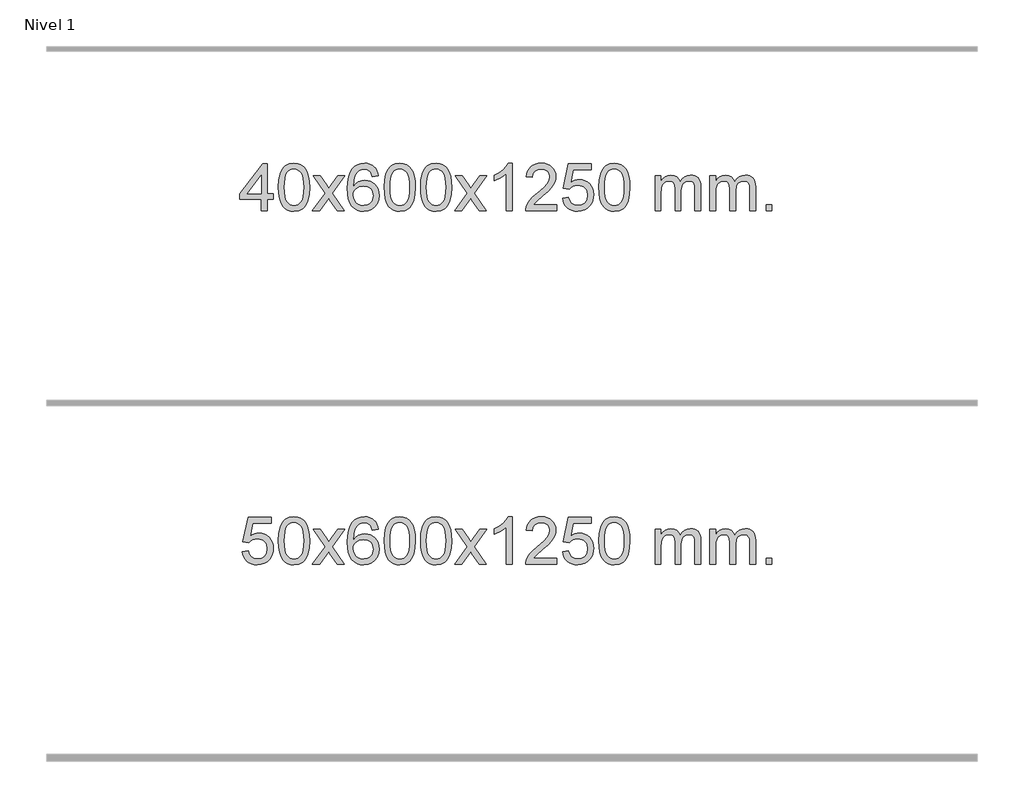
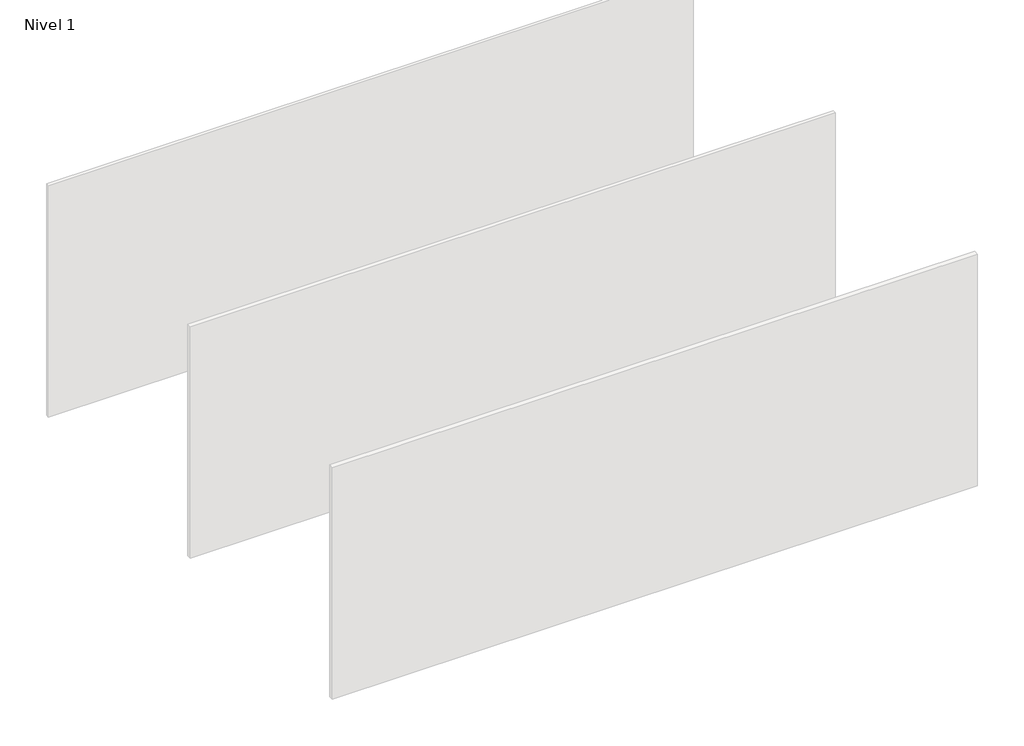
# One storey, part 4 of 4: 2 proxies.
"""IFC4 building model written with IfcOpenShell, lengths in millimetres."""

import ifcopenshell
import ifcopenshell.guid

model = None  # the IFC model being written
_history = None  # IfcOwnerHistory: only IFC2X3 demands one
_inside = {}  # id of a spatial element -> (the spatial element, [elements in it])
_under = {}  # id of a project, library or spatial element -> (it, [spatial elements below it])
_declared = {}  # id of a project -> (the project, [libraries it declares])
_typed = {}  # id of a type object -> (the type object, [elements of that type])
_made_of = {}  # id of a material, layer set ... -> (it, [elements and type objects made of it])


def new_model(schema):
    """Start an empty IFC model of exactly this schema.

    Asked for "IFC4X3", IfcOpenShell would pick the latest addendum, in which some entities
    have other attributes; the version numbers below select the first issue.
    IFC2X3 requires an IfcOwnerHistory on every rooted entity: one is made here for all.
    """
    global model, _history
    if schema == "IFC4X3":
        model = ifcopenshell.file(schema_version=(4, 3, 0, 0))
    else:
        model = ifcopenshell.file(schema=schema)
    _inside.clear()
    _under.clear()
    _declared.clear()
    _typed.clear()
    _made_of.clear()
    _history = None
    if model.schema == "IFC2X3":
        org = make("IfcOrganization", Name="unknown")
        user = make(
            "IfcPersonAndOrganization",
            ThePerson=make("IfcPerson", FamilyName="unknown"),
            TheOrganization=org,
        )
        app = make(
            "IfcApplication",
            ApplicationDeveloper=org,
            Version="unknown",
            ApplicationFullName="unknown",
            ApplicationIdentifier="unknown",
        )
        _history = make(
            "IfcOwnerHistory",
            OwningUser=user,
            OwningApplication=app,
            ChangeAction="ADDED",
            CreationDate=0,
        )
    return model


def make(cls, **values):
    """One entity of the class cls with the attributes given. An attribute that is None is left unset."""
    return model.create_entity(
        cls, **{name: value for name, value in values.items() if value is not None}
    )


def rooted(cls, **values):
    """An entity with a GlobalId (a new one), such as an element, a storey or a relation."""
    return make(cls, GlobalId=ifcopenshell.guid.new(), OwnerHistory=_history, **values)


def si_unit(unit_type, name, prefix=None):
    """IfcSIUnit, for example si_unit("LENGTHUNIT", "METRE", prefix="MILLI")."""
    return make("IfcSIUnit", UnitType=unit_type, Prefix=prefix, Name=name)


def assignment(units):
    """IfcUnitAssignment: the units of a project."""
    return None if units is None else make("IfcUnitAssignment", Units=units)


def point(xyz):
    """IfcCartesianPoint."""
    return None if xyz is None else make("IfcCartesianPoint", Coordinates=xyz)


def direction(xyz):
    """IfcDirection."""
    return None if xyz is None else make("IfcDirection", DirectionRatios=xyz)


def frame(location, z_axis=None, x_axis=None):
    """IfcAxis2Placement3D, a coordinate frame: its origin and axes. An axis left out is left unset."""
    return make(
        "IfcAxis2Placement3D",
        Location=point(location),
        Axis=direction(z_axis),
        RefDirection=direction(x_axis),
    )


def origin():
    """The frame at (0, 0, 0) with its axes left unset."""
    return frame((0.0, 0.0, 0.0))


def origin_with_axes():
    """The frame at (0, 0, 0) with the z axis (0, 0, 1) and the x axis (1, 0, 0) written out."""
    return frame((0.0, 0.0, 0.0), z_axis=(0.0, 0.0, 1.0), x_axis=(1.0, 0.0, 0.0))


def place(relative_to, where):
    """IfcLocalPlacement: puts the frame where relative to a parent placement (None: the world)."""
    return make(
        "IfcLocalPlacement", PlacementRelTo=relative_to, RelativePlacement=where
    )


def context(
    kind, dimensions, precision=None, world=None, true_north=None, identifier=None
):
    """IfcGeometricRepresentationContext, for example the 3D "Model" context."""
    return make(
        "IfcGeometricRepresentationContext",
        ContextIdentifier=identifier,
        ContextType=kind,
        CoordinateSpaceDimension=dimensions,
        Precision=precision,
        WorldCoordinateSystem=world,
        TrueNorth=true_north,
    )


def project(units=None, contexts=None):
    """IfcProject with its units and contexts."""
    return rooted(
        "IfcProject",
        Name="project",
        RepresentationContexts=contexts,
        UnitsInContext=assignment(units),
    )


def spatial(cls, under=None, at=None, **own):
    """A site, building, storey or space (cls), placed at a placement, below another one or the project."""
    s = rooted(cls, ObjectPlacement=at, **own)
    if under is not None:
        _under.setdefault(under.id(), (under, []))[1].append(s)
    return s


def polyline(points):
    """IfcPolyline through the points."""
    return make("IfcPolyline", Points=[point(p) for p in points])


def outline(outer, holes=None, kind="AREA"):
    """IfcArbitraryClosedProfileDef: a profile drawn as a closed curve; with holes, ...WithVoids."""
    if holes is None:
        return make("IfcArbitraryClosedProfileDef", ProfileType=kind, OuterCurve=outer)
    return make(
        "IfcArbitraryProfileDefWithVoids",
        ProfileType=kind,
        OuterCurve=outer,
        InnerCurves=holes,
    )


def extrude(swept, where, along, depth):
    """IfcExtrudedAreaSolid: the profile swept, set in the frame where, extruded along a direction by depth."""
    return make(
        "IfcExtrudedAreaSolid",
        SweptArea=swept,
        Position=where,
        ExtrudedDirection=direction(along),
        Depth=depth,
    )


def shape(context_of_items, identifier, shape_type, items):
    """IfcShapeRepresentation: the items that make up one representation, for example the "Body"."""
    return make(
        "IfcShapeRepresentation",
        ContextOfItems=context_of_items,
        RepresentationIdentifier=identifier,
        RepresentationType=shape_type,
        Items=items,
    )


def made_of(thing, what):
    """Note that an element or type object is made of a material, layer set ...; save() writes the relation."""
    if what is not None:
        _made_of.setdefault(what.id(), (what, []))[1].append(thing)
    return thing


def element(
    cls,
    number,
    at=None,
    inside=None,
    cuts=None,
    type_object=None,
    material=None,
    context=None,
    identifier="Body",
    shape_type=None,
    held_by="IfcProductDefinitionShape",
    body=None,
    shapes=None,
    **own,
):
    """One element of the class cls, such as IfcWall. Its Tag is "e" and its number.

    at: its placement. inside: the storey or other place that contains it. cuts: it is an
    opening in that element (IfcRelVoidsElement). A single representation is given by context,
    identifier, shape_type and body (its items); several are given by shapes. held_by: the class
    of the entity that holds the representations. save() writes the other relations.
    """
    e = rooted(cls, Tag="e%d" % number, ObjectPlacement=at, **own)
    if body is not None:
        shapes = [shape(context, identifier, shape_type, body)]
    if shapes is not None:
        e.Representation = make(held_by, Representations=shapes)
    if inside is not None:
        _inside.setdefault(inside.id(), (inside, []))[1].append(e)
    if cuts is not None:
        rooted(
            "IfcRelVoidsElement", RelatingBuildingElement=cuts, RelatedOpeningElement=e
        )
    if type_object is not None:
        _typed.setdefault(type_object.id(), (type_object, []))[1].append(e)
    return made_of(e, material)


def aggregate(whole, parts):
    """IfcRelAggregates: a whole, such as a stair, and the parts it consists of."""
    return rooted("IfcRelAggregates", RelatingObject=whole, RelatedObjects=parts)


def save(model, path):
    """Write the relations noted so far, then the file.

    IfcRelAggregates (storeys below a building ...), IfcRelContainedInSpatialStructure (elements
    in a storey), IfcRelDefinesByType, IfcRelAssociatesMaterial and IfcRelDeclares: one each for
    every whole, place, type object, material and project.
    """
    for whole, parts in _under.values():
        aggregate(whole, parts)
    for where, things in _inside.values():
        rooted(
            "IfcRelContainedInSpatialStructure",
            RelatedElements=things,
            RelatingStructure=where,
        )
    for kind, things in _typed.values():
        rooted("IfcRelDefinesByType", RelatedObjects=things, RelatingType=kind)
    for what, things in _made_of.values():
        rooted("IfcRelAssociatesMaterial", RelatedObjects=things, RelatingMaterial=what)
    for by, libraries in _declared.values():
        rooted("IfcRelDeclares", RelatingContext=by, RelatedDefinitions=libraries)
    model.write(path)


model = new_model("IFC4")

# Units and contexts
model_context = context("Model", 3, world=origin())
ifc_project = project(units=[si_unit("LENGTHUNIT", "METRE", prefix="MILLI")], contexts=[model_context])

# Site, building, storey
site = spatial("IfcSite", under=ifc_project)
building = spatial("IfcBuilding", under=site)
storey = spatial("IfcBuildingStorey", under=building, Name="Nivel 1", Elevation=0.0)

# Proxies
placement = place(None, origin())
element("IfcBuildingElementProxy", 1, Name="Texto de modelo 1", ObjectType="Texto de modelo 1", at=placement, inside=storey, context=model_context, shape_type="SweptSolid", body=[
    extrude(outline(polyline([(-4707.6020619, 2608.420547), (-4707.6020619, 2702.5983378), (-4889.6791241, 2702.5983378), (-4889.6791241, 2752.8264928), (-4695.0450232, 3003.9672682), (-4657.3739068, 3003.9672682), (-4657.3739068, 2752.8264928), (-4607.1457518, 2752.8264928), (-4607.1457518, 2702.5983378), (-4657.3739068, 2702.5983378), (-4657.3739068, 2608.420547), (-4707.6020619, 2608.420547)]), holes=[polyline([(-4707.6020619, 2752.8264928), (-4707.6020619, 2908.0236439), (-4827.8749489, 2752.8264928), (-4707.6020619, 2752.8264928)])]), origin_with_axes(), (0.0, 0.0, 1.0), 10.0),
    extrude(outline(polyline([(-4563.1961161, 2806.0958057), (-4559.5050334, 2870.4138412), (-4548.4317853, 2921.7088541), (-4530.0867365, 2960.7656593), (-4518.2286735, 2975.9990395), (-4504.5802515, 2988.3690716), (-4489.0954852, 2997.9401349), (-4471.7283893, 3004.7766086), (-4431.347209, 3010.2457876), (-4400.3960705, 3007.008426), (-4372.6822935, 2997.2963414), (-4349.5057278, 2981.4896783), (-4332.1662231, 2959.9685816), (-4319.0696241, 2932.9169922), (-4308.6217754, 2900.5188512), (-4301.7791703, 2859.3773814), (-4299.4983019, 2806.0958057), (-4303.1525964, 2742.1456523), (-4314.1154799, 2690.9732667), (-4332.3501641, 2651.8796734), (-4344.1806359, 2636.6003078), (-4357.8198609, 2624.1658964), (-4373.3230213, 2614.5304538), (-4390.7452995, 2607.6479948), (-4431.347209, 2602.1420276), (-4459.011935, 2604.5332606), (-4483.5374014, 2611.7069595), (-4504.923608, 2623.6631243), (-4523.170555, 2640.4017551), (-4540.681738, 2670.6600492), (-4553.1897258, 2708.3618224), (-4560.6945185, 2753.5070745), (-4563.1961161, 2806.0958057)]), holes=[polyline([(-4512.967961, 2806.1939076), (-4511.496433, 2762.5293805), (-4507.0818491, 2727.1851178), (-4499.7242092, 2700.1611196), (-4489.4235133, 2681.4573858), (-4476.9645764, 2668.7317344), (-4463.1322134, 2659.6419835), (-4447.9264243, 2654.1881329), (-4431.347209, 2652.3701827), (-4414.7679938, 2654.1942643), (-4399.5622046, 2659.6665089), (-4385.7298416, 2668.7869167), (-4373.2709047, 2681.5554876), (-4362.9702088, 2700.2898783), (-4355.6125689, 2727.3077451), (-4351.197985, 2762.6090882), (-4349.726457, 2806.1939076), (-4351.1489341, 2848.7026722), (-4355.4163652, 2883.4246011), (-4362.5287504, 2910.3596945), (-4372.4860898, 2929.5079524), (-4384.7365602, 2942.8559375), (-4398.7283388, 2952.3902125), (-4414.4614254, 2958.1107775), (-4431.9358202, 2960.0176325), (-4448.4291963, 2958.3376381), (-4463.3774681, 2953.2976548), (-4476.7806354, 2944.8976825), (-4488.6386984, 2933.1377214), (-4499.2827508, 2912.291075), (-4506.8856454, 2884.1848906), (-4511.4473821, 2848.8191681), (-4512.967961, 2806.1939076)])]), origin_with_axes(), (0.0, 0.0, 1.0), 10.0),
    extrude(outline(polyline([(-4274.3842244, 2608.420547), (-4167.0607837, 2756.7505675), (-4268.105705, 2903.5109581), (-4207.6749559, 2903.5109581), (-4158.9183288, 2832.877615), (-4136.1586961, 2799.5229808), (-4116.4402211, 2826.7952993), (-4060.9145653, 2903.5109581), (-4000.4838163, 2903.5109581), (-4106.6300346, 2756.7505675), (-4004.4078909, 2608.420547), (-4064.8386399, 2608.420547), (-4126.3485095, 2697.5951426), (-4137.6302241, 2713.8800523), (-4213.9534753, 2608.420547), (-4274.3842244, 2608.420547)])), origin_with_axes(), (0.0, 0.0, 1.0), 10.0),
    extrude(outline(polyline([(-3715.5959992, 2903.5109581), (-3765.8241543, 2897.2324387), (-3773.9175582, 2922.125787), (-3784.8559162, 2939.1219352), (-3807.6400744, 2954.7937082), (-3835.1821731, 2960.0176325), (-3858.5304171, 2956.9764747), (-3880.5052349, 2947.8530012), (-3899.3775813, 2928.6372983), (-3914.7918368, 2902.1865829), (-3925.2028973, 2864.772984), (-3929.0656583, 2812.6686307), (-3908.9179877, 2836.1762902), (-3884.772666, 2852.7432427), (-3857.9785941, 2862.565692), (-3829.8846724, 2865.8398418), (-3805.7516135, 2863.601893), (-3783.48249, 2856.8880466), (-3763.077302, 2845.6983025), (-3744.5360495, 2830.0326609), (-3729.1279252, 2810.8230894), (-3718.1221222, 2789.0015557), (-3711.5186404, 2764.5680599), (-3709.3174798, 2737.5226018), (-3713.4622836, 2701.5560055), (-3725.8966951, 2668.213634), (-3745.5906445, 2639.9357713), (-3771.5140625, 2619.1627013), (-3802.4897265, 2606.397196), (-3837.3404141, 2602.1420276), (-3867.2829429, 2604.9624563), (-3894.3253352, 2613.4237421), (-3918.4675911, 2627.5258853), (-3939.7097107, 2647.2688857), (-3957.0277556, 2673.4866092), (-3969.3977877, 2707.0129217), (-3976.8198069, 2747.8478232), (-3979.2938133, 2795.9913136), (-3976.5469611, 2849.9657337), (-3968.3064044, 2896.0306908), (-3954.5721433, 2934.1861851), (-3935.3441776, 2964.4322165), (-3914.5036626, 2984.4756538), (-3890.3399469, 2998.7923948), (-3862.8530305, 3007.3824394), (-3832.0429134, 3010.2457876), (-3808.9092673, 3008.4738227), (-3787.9706504, 3003.1579278), (-3769.2270627, 2994.2981031), (-3752.6785043, 2981.8943485), (-3738.7725649, 2966.3635969), (-3727.9568342, 2948.1227814), (-3720.2313123, 2927.1719017), (-3715.5959992, 2903.5109581)]), holes=[polyline([(-3929.0656583, 2738.3074168), (-3926.1593905, 2716.0505561), (-3917.4405872, 2694.7992395), (-3903.9025298, 2676.527767), (-3886.5384996, 2663.2104388), (-3865.5814886, 2655.0802467), (-3841.2644887, 2652.3701827), (-3808.118321, 2657.9865145), (-3794.2031845, 2665.0069292), (-3782.060013, 2674.8355099), (-3772.2099726, 2687.0737176), (-3765.1742294, 2701.3230135), (-3759.5456349, 2735.8548701), (-3765.100653, 2769.0010379), (-3772.0444257, 2782.6218688), (-3781.7657074, 2794.274531), (-3793.9456671, 2803.6095366), (-3808.2654738, 2810.2773978), (-3843.3246279, 2815.6116867), (-3876.4217448, 2810.2773978), (-3904.0987335, 2794.274531), (-3915.0217631, 2782.7751529), (-3922.8239271, 2769.6141746), (-3927.5052255, 2754.7915958), (-3929.0656583, 2738.3074168)])]), origin_with_axes(), (0.0, 0.0, 1.0), 10.0),
    extrude(outline(polyline([(-3665.3678441, 2806.0958057), (-3661.6767614, 2870.4138412), (-3650.6035134, 2921.7088541), (-3632.2584646, 2960.7656593), (-3620.4004016, 2975.9990395), (-3606.7519796, 2988.3690716), (-3591.2672132, 2997.9401349), (-3573.9001174, 3004.7766086), (-3533.518937, 3010.2457876), (-3502.5677985, 3007.008426), (-3474.8540216, 2997.2963414), (-3451.6774559, 2981.4896783), (-3434.3379511, 2959.9685816), (-3421.2413521, 2932.9169922), (-3410.7935035, 2900.5188512), (-3403.9508983, 2859.3773814), (-3401.67003, 2806.0958057), (-3405.3243245, 2742.1456523), (-3416.2872079, 2690.9732667), (-3434.5218921, 2651.8796734), (-3446.352364, 2636.6003078), (-3459.9915889, 2624.1658964), (-3475.4947494, 2614.5304538), (-3492.9170275, 2607.6479948), (-3533.518937, 2602.1420276), (-3561.1836631, 2604.5332606), (-3585.7091294, 2611.7069595), (-3607.0953361, 2623.6631243), (-3625.342283, 2640.4017551), (-3642.853466, 2670.6600492), (-3655.3614539, 2708.3618224), (-3662.8662466, 2753.5070745), (-3665.3678441, 2806.0958057)]), holes=[polyline([(-3615.139689, 2806.1939076), (-3613.6681611, 2762.5293805), (-3609.2535771, 2727.1851178), (-3601.8959372, 2700.1611196), (-3591.5952414, 2681.4573858), (-3579.1363044, 2668.7317344), (-3565.3039414, 2659.6419835), (-3550.0981523, 2654.1881329), (-3533.518937, 2652.3701827), (-3516.9397218, 2654.1942643), (-3501.7339327, 2659.6665089), (-3487.9015696, 2668.7869167), (-3475.4426327, 2681.5554876), (-3465.1419369, 2700.2898783), (-3457.784297, 2727.3077451), (-3453.369713, 2762.6090882), (-3451.8981851, 2806.1939076), (-3453.3206621, 2848.7026722), (-3457.5880932, 2883.4246011), (-3464.7004785, 2910.3596945), (-3474.6578178, 2929.5079524), (-3486.9082883, 2942.8559375), (-3500.9000668, 2952.3902125), (-3516.6331535, 2958.1107775), (-3534.1075482, 2960.0176325), (-3550.6009244, 2958.3376381), (-3565.5491961, 2953.2976548), (-3578.9523635, 2944.8976825), (-3590.8104264, 2933.1377214), (-3601.4544788, 2912.291075), (-3609.0573734, 2884.1848906), (-3613.6191101, 2848.8191681), (-3615.139689, 2806.1939076)])]), origin_with_axes(), (0.0, 0.0, 1.0), 10.0),
    extrude(outline(polyline([(-3357.7203943, 2806.0958057), (-3354.0293116, 2870.4138412), (-3342.9560635, 2921.7088541), (-3324.6110147, 2960.7656593), (-3312.7529517, 2975.9990395), (-3299.1045297, 2988.3690716), (-3283.6197634, 2997.9401349), (-3266.2526676, 3004.7766086), (-3225.8714872, 3010.2457876), (-3194.9203487, 3007.008426), (-3167.2065717, 2997.2963414), (-3144.030006, 2981.4896783), (-3126.6905013, 2959.9685816), (-3113.5939023, 2932.9169922), (-3103.1460536, 2900.5188512), (-3096.3034485, 2859.3773814), (-3094.0225801, 2806.0958057), (-3097.6768746, 2742.1456523), (-3108.6397581, 2690.9732667), (-3126.8744423, 2651.8796734), (-3138.7049141, 2636.6003078), (-3152.3441391, 2624.1658964), (-3167.8472995, 2614.5304538), (-3185.2695777, 2607.6479948), (-3225.8714872, 2602.1420276), (-3253.5362133, 2604.5332606), (-3278.0616796, 2611.7069595), (-3299.4478862, 2623.6631243), (-3317.6948332, 2640.4017551), (-3335.2060162, 2670.6600492), (-3347.714004, 2708.3618224), (-3355.2187967, 2753.5070745), (-3357.7203943, 2806.0958057)]), holes=[polyline([(-3307.4922392, 2806.1939076), (-3306.0207112, 2762.5293805), (-3301.6061273, 2727.1851178), (-3294.2484874, 2700.1611196), (-3283.9477915, 2681.4573858), (-3271.4888546, 2668.7317344), (-3257.6564916, 2659.6419835), (-3242.4507025, 2654.1881329), (-3225.8714872, 2652.3701827), (-3209.292272, 2654.1942643), (-3194.0864828, 2659.6665089), (-3180.2541198, 2668.7869167), (-3167.7951829, 2681.5554876), (-3157.494487, 2700.2898783), (-3150.1368471, 2727.3077451), (-3145.7222632, 2762.6090882), (-3144.2507352, 2806.1939076), (-3145.6732123, 2848.7026722), (-3149.9406434, 2883.4246011), (-3157.0530287, 2910.3596945), (-3167.010368, 2929.5079524), (-3179.2608384, 2942.8559375), (-3193.252617, 2952.3902125), (-3208.9857036, 2958.1107775), (-3226.4600984, 2960.0176325), (-3242.9534745, 2958.3376381), (-3257.9017463, 2953.2976548), (-3271.3049136, 2944.8976825), (-3283.1629766, 2933.1377214), (-3293.807029, 2912.291075), (-3301.4099236, 2884.1848906), (-3305.9716603, 2848.8191681), (-3307.4922392, 2806.1939076)])]), origin_with_axes(), (0.0, 0.0, 1.0), 10.0),
    extrude(outline(polyline([(-3068.9085026, 2608.420547), (-2961.5850619, 2756.7505675), (-3062.6299832, 2903.5109581), (-3002.1992341, 2903.5109581), (-2953.4426071, 2832.877615), (-2930.6829743, 2799.5229808), (-2910.9644993, 2826.7952993), (-2855.4388435, 2903.5109581), (-2795.0080945, 2903.5109581), (-2901.1543128, 2756.7505675), (-2798.9321691, 2608.420547), (-2859.3629182, 2608.420547), (-2920.8727877, 2697.5951426), (-2932.1545023, 2713.8800523), (-3008.4777535, 2608.420547), (-3068.9085026, 2608.420547)])), origin_with_axes(), (0.0, 0.0, 1.0), 10.0),
    extrude(outline(polyline([(-2579.1839906, 2608.420547), (-2629.4121457, 2608.420547), (-2629.4121457, 2921.5617013), (-2650.3814194, 2904.6023413), (-2676.9915504, 2887.6675068), (-2729.8684559, 2862.3081746), (-2729.8684559, 2909.7894775), (-2690.4192432, 2931.2492605), (-2656.2430059, 2956.780271), (-2629.3017811, 2983.9299622), (-2611.5576062, 3010.2457876), (-2579.1839906, 3010.2457876), (-2579.1839906, 2608.420547)])), origin_with_axes(), (0.0, 0.0, 1.0), 10.0),
    extrude(outline(polyline([(-2202.4728276, 2658.6487021), (-2202.4728276, 2608.420547), (-2466.1706417, 2608.420547), (-2465.0669957, 2626.1034082), (-2460.7750391, 2643.0505055), (-2448.3896786, 2670.1143576), (-2430.265359, 2696.3688693), (-2404.0476355, 2723.8496544), (-2367.3820633, 2754.5923264), (-2313.1807826, 2802.7358169), (-2280.6600143, 2838.2732176), (-2264.3996301, 2867.115166), (-2258.979502, 2895.1722995), (-2264.0930618, 2920.3231653), (-2279.433741, 2941.2311253), (-2303.0149768, 2955.3210057), (-2332.8502067, 2960.0176325), (-2364.1814899, 2955.4313703), (-2388.5230153, 2941.6725837), (-2404.2315765, 2919.8203932), (-2409.6639672, 2890.9539193), (-2459.8921223, 2897.2324387), (-2455.5725746, 2923.161988), (-2447.7152283, 2945.8173875), (-2436.3200835, 2965.1986373), (-2421.3871402, 2981.3057373), (-2403.2597548, 2993.9670093), (-2382.2812841, 3003.010775), (-2358.4517278, 3008.4370345), (-2331.7710861, 3010.2457876), (-2304.8513211, 3008.2346994), (-2280.8930062, 3002.2014346), (-2259.8961413, 2992.1459934), (-2241.8607265, 2978.0683758), (-2227.375373, 2961.0109139), (-2217.0286918, 2942.0159402), (-2210.8206832, 2921.0834547), (-2208.7513469, 2898.2134573), (-2210.9831644, 2874.1907631), (-2217.6786167, 2850.5850017), (-2229.5612051, 2826.5745701), (-2247.354431, 2801.3378653), (-2275.7181328, 2771.2083299), (-2319.3121492, 2732.5194067), (-2377.0941479, 2684.204238), (-2399.7556788, 2658.6487021), (-2202.4728276, 2658.6487021)])), origin_with_axes(), (0.0, 0.0, 1.0), 10.0),
    extrude(outline(polyline([(-2152.2446725, 2715.1553765), (-2102.0165174, 2721.4338959), (-2092.7949421, 2691.2798351), (-2076.7062361, 2669.6851619), (-2053.823976, 2656.6989275), (-2024.2217382, 2652.3701827), (-2005.0918744, 2653.8754332), (-1988.2183536, 2658.3911847), (-1973.6011756, 2665.9174372), (-1961.2403406, 2676.4541906), (-1951.41176, 2689.480279), (-1944.3913452, 2704.4745359), (-1938.7750134, 2740.3675559), (-1944.035726, 2774.1636486), (-1950.6116166, 2788.0818507), (-1959.8178635, 2800.0134901), (-1971.6851236, 2809.5845533), (-1986.2440535, 2816.4210271), (-2023.4369232, 2821.8902061), (-2047.8029741, 2819.7074396), (-2067.5337117, 2813.1591401), (-2083.2913239, 2803.1282243), (-2095.737998, 2790.4976092), (-2145.9661531, 2796.7761285), (-2102.0165174, 3003.9672682), (-1907.3824165, 3003.9672682), (-1907.3824165, 2953.7391131), (-2061.4023451, 2953.7391131), (-2082.8866537, 2843.080209), (-2065.1608729, 2855.7844006), (-2047.0058964, 2864.8588231), (-2028.4217243, 2870.3034766), (-2009.4083565, 2872.1183612), (-1984.9472695, 2869.8681496), (-1962.4788766, 2863.117515), (-1942.0031779, 2851.8664573), (-1923.5201734, 2836.1149766), (-1908.219348, 2816.8256973), (-1897.2901871, 2794.961244), (-1890.7326905, 2770.5216168), (-1888.5468583, 2743.5068156), (-1890.515027, 2717.4852958), (-1896.419533, 2693.2786606), (-1906.2603764, 2670.8869098), (-1920.0375571, 2650.3100435), (-1940.908729, 2629.2365366), (-1965.2625171, 2614.1840316), (-1993.0989214, 2605.1525286), (-2024.4179419, 2602.1420276), (-2050.3382941, 2604.0764738), (-2073.7509175, 2609.8798123), (-2094.6558118, 2619.552043), (-2113.0529773, 2633.0931662), (-2128.359934, 2649.8287312), (-2139.9942021, 2669.084288), (-2147.9557816, 2690.8598364), (-2152.2446725, 2715.1553765)])), origin_with_axes(), (0.0, 0.0, 1.0), 10.0),
    extrude(outline(polyline([(-1844.5972227, 2806.0958057), (-1840.90614, 2870.4138412), (-1829.8328919, 2921.7088541), (-1811.4878431, 2960.7656593), (-1799.6297801, 2975.9990395), (-1785.9813581, 2988.3690716), (-1770.4965918, 2997.9401349), (-1753.1294959, 3004.7766086), (-1712.7483156, 3010.2457876), (-1681.7971771, 3007.008426), (-1654.0834001, 2997.2963414), (-1630.9068344, 2981.4896783), (-1613.5673297, 2959.9685816), (-1600.4707307, 2932.9169922), (-1590.022882, 2900.5188512), (-1583.1802769, 2859.3773814), (-1580.8994085, 2806.0958057), (-1584.553703, 2742.1456523), (-1595.5165865, 2690.9732667), (-1613.7512707, 2651.8796734), (-1625.5817425, 2636.6003078), (-1639.2209675, 2624.1658964), (-1654.7241279, 2614.5304538), (-1672.1464061, 2607.6479948), (-1712.7483156, 2602.1420276), (-1740.4130416, 2604.5332606), (-1764.938508, 2611.7069595), (-1786.3247146, 2623.6631243), (-1804.5716616, 2640.4017551), (-1822.0828446, 2670.6600492), (-1834.5908324, 2708.3618224), (-1842.0956251, 2753.5070745), (-1844.5972227, 2806.0958057)]), holes=[polyline([(-1794.3690676, 2806.1939076), (-1792.8975396, 2762.5293805), (-1788.4829557, 2727.1851178), (-1781.1253158, 2700.1611196), (-1770.8246199, 2681.4573858), (-1758.365683, 2668.7317344), (-1744.53332, 2659.6419835), (-1729.3275308, 2654.1881329), (-1712.7483156, 2652.3701827), (-1696.1691003, 2654.1942643), (-1680.9633112, 2659.6665089), (-1667.1309482, 2668.7869167), (-1654.6720113, 2681.5554876), (-1644.3713154, 2700.2898783), (-1637.0136755, 2727.3077451), (-1632.5990916, 2762.6090882), (-1631.1275636, 2806.1939076), (-1632.5500406, 2848.7026722), (-1636.8174718, 2883.4246011), (-1643.929857, 2910.3596945), (-1653.8871964, 2929.5079524), (-1666.1376668, 2942.8559375), (-1680.1294453, 2952.3902125), (-1695.862532, 2958.1107775), (-1713.3369268, 2960.0176325), (-1729.8303029, 2958.3376381), (-1744.7785746, 2953.2976548), (-1758.181742, 2944.8976825), (-1770.039805, 2933.1377214), (-1780.6838574, 2912.291075), (-1788.2867519, 2884.1848906), (-1792.8484887, 2848.8191681), (-1794.3690676, 2806.1939076)])]), origin_with_axes(), (0.0, 0.0, 1.0), 10.0),
    extrude(outline(polyline([(-1367.4297494, 2608.420547), (-1367.4297494, 2903.5109581), (-1317.2015944, 2903.5109581), (-1317.2015944, 2854.9505347), (-1302.0939071, 2877.2564463), (-1282.6697378, 2894.7308411), (-1259.5912739, 2906.0248184), (-1233.5207032, 2909.7894775), (-1205.586197, 2905.951242), (-1183.1944463, 2894.4365355), (-1166.4680782, 2876.0056476), (-1155.5297202, 2851.4188676), (-1137.2214596, 2876.9560094), (-1116.338025, 2895.196825), (-1092.8794164, 2906.1413143), (-1066.8456339, 2909.7894775), (-1046.7378172, 2908.2719642), (-1029.0886785, 2903.7194245), (-1013.8982178, 2896.1318584), (-1001.166435, 2885.5092658), (-991.1017968, 2871.7290194), (-983.9127695, 2854.6684918), (-979.5993531, 2834.3276832), (-978.1615476, 2810.7065934), (-978.1615476, 2608.420547), (-1028.3897027, 2608.420547), (-1028.3897027, 2789.124183), (-1029.5546623, 2814.1769469), (-1033.0495413, 2831.0627305), (-1039.5978408, 2842.6264879), (-1049.9230621, 2851.7131732), (-1063.2036022, 2857.5992851), (-1078.6178578, 2859.5613224), (-1105.8288627, 2854.5336018), (-1128.012147, 2839.45044), (-1136.61752, 2827.8805512), (-1142.764215, 2813.2817674), (-1147.681571, 2774.9975144), (-1147.681571, 2608.420547), (-1197.9097261, 2608.420547), (-1197.9097261, 2794.7159894), (-1200.8159938, 2823.1164794), (-1209.5347971, 2843.3745146), (-1224.8754763, 2855.5146204), (-1247.6473718, 2859.5613224), (-1266.9979648, 2856.8635211), (-1284.8279788, 2848.7701172), (-1299.5432586, 2835.4773144), (-1309.5496489, 2817.1813165), (-1315.288608, 2791.7974589), (-1317.2015944, 2757.2410768), (-1317.2015944, 2608.420547), (-1367.4297494, 2608.420547)])), origin_with_axes(), (0.0, 0.0, 1.0), 10.0),
    extrude(outline(polyline([(-902.819315, 2608.420547), (-902.819315, 2903.5109581), (-852.5911599, 2903.5109581), (-852.5911599, 2854.9505347), (-837.4834727, 2877.2564463), (-818.0593033, 2894.7308411), (-794.9808395, 2906.0248184), (-768.9102688, 2909.7894775), (-740.9757626, 2905.951242), (-718.5840118, 2894.4365355), (-701.8576438, 2876.0056476), (-690.9192858, 2851.4188676), (-672.6110252, 2876.9560094), (-651.7275906, 2895.196825), (-628.268982, 2906.1413143), (-602.2351995, 2909.7894775), (-582.1273828, 2908.2719642), (-564.478244, 2903.7194245), (-549.2877833, 2896.1318584), (-536.5560006, 2885.5092658), (-526.4913624, 2871.7290194), (-519.302335, 2854.6684918), (-514.9889186, 2834.3276832), (-513.5511132, 2810.7065934), (-513.5511132, 2608.420547), (-563.7792682, 2608.420547), (-563.7792682, 2789.124183), (-564.9442279, 2814.1769469), (-568.4391069, 2831.0627305), (-574.9874064, 2842.6264879), (-585.3126277, 2851.7131732), (-598.5931677, 2857.5992851), (-614.0074233, 2859.5613224), (-641.2184282, 2854.5336018), (-663.4017125, 2839.45044), (-672.0070855, 2827.8805512), (-678.1537806, 2813.2817674), (-683.0711366, 2774.9975144), (-683.0711366, 2608.420547), (-733.2992916, 2608.420547), (-733.2992916, 2794.7159894), (-736.2055594, 2823.1164794), (-744.9243627, 2843.3745146), (-760.2650419, 2855.5146204), (-783.0369374, 2859.5613224), (-802.3875303, 2856.8635211), (-820.2175444, 2848.7701172), (-834.9328242, 2835.4773144), (-844.9392144, 2817.1813165), (-850.6781736, 2791.7974589), (-852.5911599, 2757.2410768), (-852.5911599, 2608.420547), (-902.819315, 2608.420547)])), origin_with_axes(), (0.0, 0.0, 1.0), 10.0),
    extrude(outline(polyline([(-425.6518418, 2608.420547), (-425.6518418, 2658.6487021), (-375.4236867, 2658.6487021), (-375.4236867, 2608.420547), (-425.6518418, 2608.420547)])), origin_with_axes(), (0.0, 0.0, 1.0), 10.0),
])
element("IfcBuildingElementProxy", 2, Name="Texto de modelo 1", ObjectType="Texto de modelo 1", at=placement, inside=storey, context=model_context, shape_type="SweptSolid", body=[
    extrude(outline(polyline([(-4870.8435659, -284.8446235), (-4820.6154108, -278.5661041), (-4811.3938355, -308.7201649), (-4795.3051296, -330.3148381), (-4772.4228695, -343.3010725), (-4742.8206316, -347.6298173), (-4723.6907678, -346.1245668), (-4706.817247, -341.6088153), (-4692.2000691, -334.0825628), (-4679.839234, -323.5458094), (-4670.0106534, -310.519721), (-4662.9902386, -295.5254641), (-4657.3739068, -259.6324441), (-4662.6346194, -225.8363514), (-4669.21051, -211.9181493), (-4678.416757, -199.9865099), (-4690.284017, -190.4154467), (-4704.842947, -183.5789729), (-4742.0358167, -178.1097939), (-4766.4018675, -180.2925604), (-4786.1326052, -186.8408599), (-4801.8902173, -196.8717757), (-4814.3368915, -209.5023908), (-4864.5650465, -203.2238715), (-4820.6154108, 3.9672682), (-4625.9813099, 3.9672682), (-4625.9813099, -46.2608869), (-4780.0012386, -46.2608869), (-4801.4855471, -156.919791), (-4783.7597663, -144.2155994), (-4765.6047898, -135.1411769), (-4747.0206177, -129.6965234), (-4728.0072499, -127.8816388), (-4703.5461629, -130.1318504), (-4681.0777701, -136.882485), (-4660.6020714, -148.1335427), (-4642.1190668, -163.8850234), (-4626.8182415, -183.1743027), (-4615.8890805, -205.038756), (-4609.331584, -229.4783832), (-4607.1457518, -256.4931844), (-4609.1139204, -282.5147042), (-4615.0184265, -306.7213394), (-4624.8592698, -329.1130902), (-4638.6364506, -349.6899565), (-4659.5076224, -370.7634634), (-4683.8614105, -385.8159684), (-4711.6978148, -394.8474714), (-4743.0168353, -397.8579724), (-4768.9371876, -395.9235262), (-4792.3498109, -390.1201877), (-4813.2547053, -380.447957), (-4831.6518707, -366.9068338), (-4846.9588274, -350.1712688), (-4858.5930955, -330.915712), (-4866.554675, -309.1401636), (-4870.8435659, -284.8446235)])), origin_with_axes(), (0.0, 0.0, 1.0), 10.0),
    extrude(outline(polyline([(-4563.1961161, -193.9041943), (-4559.5050334, -129.5861588), (-4548.4317853, -78.2911459), (-4530.0867365, -39.2343407), (-4518.2286735, -24.0009605), (-4504.5802515, -11.6309284), (-4489.0954852, -2.0598651), (-4471.7283893, 4.7766086), (-4431.347209, 10.2457876), (-4400.3960705, 7.008426), (-4372.6822935, -2.7036586), (-4349.5057278, -18.5103217), (-4332.1662231, -40.0314184), (-4319.0696241, -67.0830078), (-4308.6217754, -99.4811488), (-4301.7791703, -140.6226186), (-4299.4983019, -193.9041943), (-4303.1525964, -257.8543477), (-4314.1154799, -309.0267333), (-4332.3501641, -348.1203266), (-4344.1806359, -363.3996922), (-4357.8198609, -375.8341036), (-4373.3230213, -385.4695462), (-4390.7452995, -392.3520052), (-4431.347209, -397.8579724), (-4459.011935, -395.4667394), (-4483.5374014, -388.2930405), (-4504.923608, -376.3368757), (-4523.170555, -359.5982449), (-4540.681738, -329.3399508), (-4553.1897258, -291.6381776), (-4560.6945185, -246.4929255), (-4563.1961161, -193.9041943)]), holes=[polyline([(-4512.967961, -193.8060924), (-4511.496433, -237.4706195), (-4507.0818491, -272.8148822), (-4499.7242092, -299.8388804), (-4489.4235133, -318.5426142), (-4476.9645764, -331.2682656), (-4463.1322134, -340.3580165), (-4447.9264243, -345.8118671), (-4431.347209, -347.6298173), (-4414.7679938, -345.8057357), (-4399.5622046, -340.3334911), (-4385.7298416, -331.2130833), (-4373.2709047, -318.4445124), (-4362.9702088, -299.7101217), (-4355.6125689, -272.6922549), (-4351.197985, -237.3909118), (-4349.726457, -193.8060924), (-4351.1489341, -151.2973278), (-4355.4163652, -116.5753989), (-4362.5287504, -89.6403055), (-4372.4860898, -70.4920476), (-4384.7365602, -57.1440625), (-4398.7283388, -47.6097875), (-4414.4614254, -41.8892225), (-4431.9358202, -39.9823675), (-4448.4291963, -41.6623619), (-4463.3774681, -46.7023452), (-4476.7806354, -55.1023175), (-4488.6386984, -66.8622786), (-4499.2827508, -87.708925), (-4506.8856454, -115.8151094), (-4511.4473821, -151.1808319), (-4512.967961, -193.8060924)])]), origin_with_axes(), (0.0, 0.0, 1.0), 10.0),
    extrude(outline(polyline([(-4274.3842244, -391.579453), (-4167.0607837, -243.2494325), (-4268.105705, -96.4890419), (-4207.6749559, -96.4890419), (-4158.9183288, -167.122385), (-4136.1586961, -200.4770192), (-4116.4402211, -173.2047007), (-4060.9145653, -96.4890419), (-4000.4838163, -96.4890419), (-4106.6300346, -243.2494325), (-4004.4078909, -391.579453), (-4064.8386399, -391.579453), (-4126.3485095, -302.4048574), (-4137.6302241, -286.1199477), (-4213.9534753, -391.579453), (-4274.3842244, -391.579453)])), origin_with_axes(), (0.0, 0.0, 1.0), 10.0),
    extrude(outline(polyline([(-3715.5959992, -96.4890419), (-3765.8241543, -102.7675613), (-3773.9175582, -77.874213), (-3784.8559162, -60.8780648), (-3807.6400744, -45.2062918), (-3835.1821731, -39.9823675), (-3858.5304171, -43.0235253), (-3880.5052349, -52.1469988), (-3899.3775813, -71.3627017), (-3914.7918368, -97.8134171), (-3925.2028973, -135.227016), (-3929.0656583, -187.3313693), (-3908.9179877, -163.8237098), (-3884.772666, -147.2567573), (-3857.9785941, -137.434308), (-3829.8846724, -134.1601582), (-3805.7516135, -136.398107), (-3783.48249, -143.1119534), (-3763.077302, -154.3016975), (-3744.5360495, -169.9673391), (-3729.1279252, -189.1769106), (-3718.1221222, -210.9984443), (-3711.5186404, -235.4319401), (-3709.3174798, -262.4773982), (-3713.4622836, -298.4439945), (-3725.8966951, -331.786366), (-3745.5906445, -360.0642287), (-3771.5140625, -380.8372987), (-3802.4897265, -393.602804), (-3837.3404141, -397.8579724), (-3867.2829429, -395.0375437), (-3894.3253352, -386.5762579), (-3918.4675911, -372.4741147), (-3939.7097107, -352.7311143), (-3957.0277556, -326.5133908), (-3969.3977877, -292.9870783), (-3976.8198069, -252.1521768), (-3979.2938133, -204.0086864), (-3976.5469611, -150.0342663), (-3968.3064044, -103.9693092), (-3954.5721433, -65.8138149), (-3935.3441776, -35.5677835), (-3914.5036626, -15.5243462), (-3890.3399469, -1.2076052), (-3862.8530305, 7.3824394), (-3832.0429134, 10.2457876), (-3808.9092673, 8.4738227), (-3787.9706504, 3.1579278), (-3769.2270627, -5.7018969), (-3752.6785043, -18.1056515), (-3738.7725649, -33.6364031), (-3727.9568342, -51.8772186), (-3720.2313123, -72.8280983), (-3715.5959992, -96.4890419)]), holes=[polyline([(-3929.0656583, -261.6925832), (-3926.1593905, -283.9494439), (-3917.4405872, -305.2007605), (-3903.9025298, -323.472233), (-3886.5384996, -336.7895612), (-3865.5814886, -344.9197533), (-3841.2644887, -347.6298173), (-3808.118321, -342.0134855), (-3794.2031845, -334.9930708), (-3782.060013, -325.1644901), (-3772.2099726, -312.9262824), (-3765.1742294, -298.6769865), (-3759.5456349, -264.1451299), (-3765.100653, -230.9989621), (-3772.0444257, -217.3781312), (-3781.7657074, -205.725469), (-3793.9456671, -196.3904634), (-3808.2654738, -189.7226022), (-3843.3246279, -184.3883133), (-3876.4217448, -189.7226022), (-3904.0987335, -205.725469), (-3915.0217631, -217.2248471), (-3922.8239271, -230.3858254), (-3927.5052255, -245.2084042), (-3929.0656583, -261.6925832)])]), origin_with_axes(), (0.0, 0.0, 1.0), 10.0),
    extrude(outline(polyline([(-3665.3678441, -193.9041943), (-3661.6767614, -129.5861588), (-3650.6035134, -78.2911459), (-3632.2584646, -39.2343407), (-3620.4004016, -24.0009605), (-3606.7519796, -11.6309284), (-3591.2672132, -2.0598651), (-3573.9001174, 4.7766086), (-3533.518937, 10.2457876), (-3502.5677985, 7.008426), (-3474.8540216, -2.7036586), (-3451.6774559, -18.5103217), (-3434.3379511, -40.0314184), (-3421.2413521, -67.0830078), (-3410.7935035, -99.4811488), (-3403.9508983, -140.6226186), (-3401.67003, -193.9041943), (-3405.3243245, -257.8543477), (-3416.2872079, -309.0267333), (-3434.5218921, -348.1203266), (-3446.352364, -363.3996922), (-3459.9915889, -375.8341036), (-3475.4947494, -385.4695462), (-3492.9170275, -392.3520052), (-3533.518937, -397.8579724), (-3561.1836631, -395.4667394), (-3585.7091294, -388.2930405), (-3607.0953361, -376.3368757), (-3625.342283, -359.5982449), (-3642.853466, -329.3399508), (-3655.3614539, -291.6381776), (-3662.8662466, -246.4929255), (-3665.3678441, -193.9041943)]), holes=[polyline([(-3615.139689, -193.8060924), (-3613.6681611, -237.4706195), (-3609.2535771, -272.8148822), (-3601.8959372, -299.8388804), (-3591.5952414, -318.5426142), (-3579.1363044, -331.2682656), (-3565.3039414, -340.3580165), (-3550.0981523, -345.8118671), (-3533.518937, -347.6298173), (-3516.9397218, -345.8057357), (-3501.7339327, -340.3334911), (-3487.9015696, -331.2130833), (-3475.4426327, -318.4445124), (-3465.1419369, -299.7101217), (-3457.784297, -272.6922549), (-3453.369713, -237.3909118), (-3451.8981851, -193.8060924), (-3453.3206621, -151.2973278), (-3457.5880932, -116.5753989), (-3464.7004785, -89.6403055), (-3474.6578178, -70.4920476), (-3486.9082883, -57.1440625), (-3500.9000668, -47.6097875), (-3516.6331535, -41.8892225), (-3534.1075482, -39.9823675), (-3550.6009244, -41.6623619), (-3565.5491961, -46.7023452), (-3578.9523635, -55.1023175), (-3590.8104264, -66.8622786), (-3601.4544788, -87.708925), (-3609.0573734, -115.8151094), (-3613.6191101, -151.1808319), (-3615.139689, -193.8060924)])]), origin_with_axes(), (0.0, 0.0, 1.0), 10.0),
    extrude(outline(polyline([(-3357.7203943, -193.9041943), (-3354.0293116, -129.5861588), (-3342.9560635, -78.2911459), (-3324.6110147, -39.2343407), (-3312.7529517, -24.0009605), (-3299.1045297, -11.6309284), (-3283.6197634, -2.0598651), (-3266.2526676, 4.7766086), (-3225.8714872, 10.2457876), (-3194.9203487, 7.008426), (-3167.2065717, -2.7036586), (-3144.030006, -18.5103217), (-3126.6905013, -40.0314184), (-3113.5939023, -67.0830078), (-3103.1460536, -99.4811488), (-3096.3034485, -140.6226186), (-3094.0225801, -193.9041943), (-3097.6768746, -257.8543477), (-3108.6397581, -309.0267333), (-3126.8744423, -348.1203266), (-3138.7049141, -363.3996922), (-3152.3441391, -375.8341036), (-3167.8472995, -385.4695462), (-3185.2695777, -392.3520052), (-3225.8714872, -397.8579724), (-3253.5362133, -395.4667394), (-3278.0616796, -388.2930405), (-3299.4478862, -376.3368757), (-3317.6948332, -359.5982449), (-3335.2060162, -329.3399508), (-3347.714004, -291.6381776), (-3355.2187967, -246.4929255), (-3357.7203943, -193.9041943)]), holes=[polyline([(-3307.4922392, -193.8060924), (-3306.0207112, -237.4706195), (-3301.6061273, -272.8148822), (-3294.2484874, -299.8388804), (-3283.9477915, -318.5426142), (-3271.4888546, -331.2682656), (-3257.6564916, -340.3580165), (-3242.4507025, -345.8118671), (-3225.8714872, -347.6298173), (-3209.292272, -345.8057357), (-3194.0864828, -340.3334911), (-3180.2541198, -331.2130833), (-3167.7951829, -318.4445124), (-3157.494487, -299.7101217), (-3150.1368471, -272.6922549), (-3145.7222632, -237.3909118), (-3144.2507352, -193.8060924), (-3145.6732123, -151.2973278), (-3149.9406434, -116.5753989), (-3157.0530287, -89.6403055), (-3167.010368, -70.4920476), (-3179.2608384, -57.1440625), (-3193.252617, -47.6097875), (-3208.9857036, -41.8892225), (-3226.4600984, -39.9823675), (-3242.9534745, -41.6623619), (-3257.9017463, -46.7023452), (-3271.3049136, -55.1023175), (-3283.1629766, -66.8622786), (-3293.807029, -87.708925), (-3301.4099236, -115.8151094), (-3305.9716603, -151.1808319), (-3307.4922392, -193.8060924)])]), origin_with_axes(), (0.0, 0.0, 1.0), 10.0),
    extrude(outline(polyline([(-3068.9085026, -391.579453), (-2961.5850619, -243.2494325), (-3062.6299832, -96.4890419), (-3002.1992341, -96.4890419), (-2953.4426071, -167.122385), (-2930.6829743, -200.4770192), (-2910.9644993, -173.2047007), (-2855.4388435, -96.4890419), (-2795.0080945, -96.4890419), (-2901.1543128, -243.2494325), (-2798.9321691, -391.579453), (-2859.3629182, -391.579453), (-2920.8727877, -302.4048574), (-2932.1545023, -286.1199477), (-3008.4777535, -391.579453), (-3068.9085026, -391.579453)])), origin_with_axes(), (0.0, 0.0, 1.0), 10.0),
    extrude(outline(polyline([(-2579.1839906, -391.579453), (-2629.4121457, -391.579453), (-2629.4121457, -78.4382987), (-2650.3814194, -95.3976587), (-2676.9915504, -112.3324932), (-2729.8684559, -137.6918254), (-2729.8684559, -90.2105225), (-2690.4192432, -68.7507395), (-2656.2430059, -43.219729), (-2629.3017811, -16.0700378), (-2611.5576062, 10.2457876), (-2579.1839906, 10.2457876), (-2579.1839906, -391.579453)])), origin_with_axes(), (0.0, 0.0, 1.0), 10.0),
    extrude(outline(polyline([(-2202.4728276, -341.3512979), (-2202.4728276, -391.579453), (-2466.1706417, -391.579453), (-2465.0669957, -373.8965918), (-2460.7750391, -356.9494945), (-2448.3896786, -329.8856424), (-2430.265359, -303.6311307), (-2404.0476355, -276.1503456), (-2367.3820633, -245.4076736), (-2313.1807826, -197.2641831), (-2280.6600143, -161.7267824), (-2264.3996301, -132.884834), (-2258.979502, -104.8277005), (-2264.0930618, -79.6768347), (-2279.433741, -58.7688747), (-2303.0149768, -44.6789943), (-2332.8502067, -39.9823675), (-2364.1814899, -44.5686297), (-2388.5230153, -58.3274163), (-2404.2315765, -80.1796068), (-2409.6639672, -109.0460807), (-2459.8921223, -102.7675613), (-2455.5725746, -76.838012), (-2447.7152283, -54.1826125), (-2436.3200835, -34.8013627), (-2421.3871402, -18.6942627), (-2403.2597548, -6.0329907), (-2382.2812841, 3.010775), (-2358.4517278, 8.4370345), (-2331.7710861, 10.2457876), (-2304.8513211, 8.2346994), (-2280.8930062, 2.2014346), (-2259.8961413, -7.8540066), (-2241.8607265, -21.9316242), (-2227.375373, -38.9890861), (-2217.0286918, -57.9840598), (-2210.8206832, -78.9165453), (-2208.7513469, -101.7865427), (-2210.9831644, -125.8092369), (-2217.6786167, -149.4149983), (-2229.5612051, -173.4254299), (-2247.354431, -198.6621347), (-2275.7181328, -228.7916701), (-2319.3121492, -267.4805933), (-2377.0941479, -315.795762), (-2399.7556788, -341.3512979), (-2202.4728276, -341.3512979)])), origin_with_axes(), (0.0, 0.0, 1.0), 10.0),
    extrude(outline(polyline([(-2152.2446725, -284.8446235), (-2102.0165174, -278.5661041), (-2092.7949421, -308.7201649), (-2076.7062361, -330.3148381), (-2053.823976, -343.3010725), (-2024.2217382, -347.6298173), (-2005.0918744, -346.1245668), (-1988.2183536, -341.6088153), (-1973.6011756, -334.0825628), (-1961.2403406, -323.5458094), (-1951.41176, -310.519721), (-1944.3913452, -295.5254641), (-1938.7750134, -259.6324441), (-1944.035726, -225.8363514), (-1950.6116166, -211.9181493), (-1959.8178635, -199.9865099), (-1971.6851236, -190.4154467), (-1986.2440535, -183.5789729), (-2023.4369232, -178.1097939), (-2047.8029741, -180.2925604), (-2067.5337117, -186.8408599), (-2083.2913239, -196.8717757), (-2095.737998, -209.5023908), (-2145.9661531, -203.2238715), (-2102.0165174, 3.9672682), (-1907.3824165, 3.9672682), (-1907.3824165, -46.2608869), (-2061.4023451, -46.2608869), (-2082.8866537, -156.919791), (-2065.1608729, -144.2155994), (-2047.0058964, -135.1411769), (-2028.4217243, -129.6965234), (-2009.4083565, -127.8816388), (-1984.9472695, -130.1318504), (-1962.4788766, -136.882485), (-1942.0031779, -148.1335427), (-1923.5201734, -163.8850234), (-1908.219348, -183.1743027), (-1897.2901871, -205.038756), (-1890.7326905, -229.4783832), (-1888.5468583, -256.4931844), (-1890.515027, -282.5147042), (-1896.419533, -306.7213394), (-1906.2603764, -329.1130902), (-1920.0375571, -349.6899565), (-1940.908729, -370.7634634), (-1965.2625171, -385.8159684), (-1993.0989214, -394.8474714), (-2024.4179419, -397.8579724), (-2050.3382941, -395.9235262), (-2073.7509175, -390.1201877), (-2094.6558118, -380.447957), (-2113.0529773, -366.9068338), (-2128.359934, -350.1712688), (-2139.9942021, -330.915712), (-2147.9557816, -309.1401636), (-2152.2446725, -284.8446235)])), origin_with_axes(), (0.0, 0.0, 1.0), 10.0),
    extrude(outline(polyline([(-1844.5972227, -193.9041943), (-1840.90614, -129.5861588), (-1829.8328919, -78.2911459), (-1811.4878431, -39.2343407), (-1799.6297801, -24.0009605), (-1785.9813581, -11.6309284), (-1770.4965918, -2.0598651), (-1753.1294959, 4.7766086), (-1712.7483156, 10.2457876), (-1681.7971771, 7.008426), (-1654.0834001, -2.7036586), (-1630.9068344, -18.5103217), (-1613.5673297, -40.0314184), (-1600.4707307, -67.0830078), (-1590.022882, -99.4811488), (-1583.1802769, -140.6226186), (-1580.8994085, -193.9041943), (-1584.553703, -257.8543477), (-1595.5165865, -309.0267333), (-1613.7512707, -348.1203266), (-1625.5817425, -363.3996922), (-1639.2209675, -375.8341036), (-1654.7241279, -385.4695462), (-1672.1464061, -392.3520052), (-1712.7483156, -397.8579724), (-1740.4130416, -395.4667394), (-1764.938508, -388.2930405), (-1786.3247146, -376.3368757), (-1804.5716616, -359.5982449), (-1822.0828446, -329.3399508), (-1834.5908324, -291.6381776), (-1842.0956251, -246.4929255), (-1844.5972227, -193.9041943)]), holes=[polyline([(-1794.3690676, -193.8060924), (-1792.8975396, -237.4706195), (-1788.4829557, -272.8148822), (-1781.1253158, -299.8388804), (-1770.8246199, -318.5426142), (-1758.365683, -331.2682656), (-1744.53332, -340.3580165), (-1729.3275308, -345.8118671), (-1712.7483156, -347.6298173), (-1696.1691003, -345.8057357), (-1680.9633112, -340.3334911), (-1667.1309482, -331.2130833), (-1654.6720113, -318.4445124), (-1644.3713154, -299.7101217), (-1637.0136755, -272.6922549), (-1632.5990916, -237.3909118), (-1631.1275636, -193.8060924), (-1632.5500406, -151.2973278), (-1636.8174718, -116.5753989), (-1643.929857, -89.6403055), (-1653.8871964, -70.4920476), (-1666.1376668, -57.1440625), (-1680.1294453, -47.6097875), (-1695.862532, -41.8892225), (-1713.3369268, -39.9823675), (-1729.8303029, -41.6623619), (-1744.7785746, -46.7023452), (-1758.181742, -55.1023175), (-1770.039805, -66.8622786), (-1780.6838574, -87.708925), (-1788.2867519, -115.8151094), (-1792.8484887, -151.1808319), (-1794.3690676, -193.8060924)])]), origin_with_axes(), (0.0, 0.0, 1.0), 10.0),
    extrude(outline(polyline([(-1367.4297494, -391.579453), (-1367.4297494, -96.4890419), (-1317.2015944, -96.4890419), (-1317.2015944, -145.0494653), (-1302.0939071, -122.7435537), (-1282.6697378, -105.2691589), (-1259.5912739, -93.9751816), (-1233.5207032, -90.2105225), (-1205.586197, -94.048758), (-1183.1944463, -105.5634645), (-1166.4680782, -123.9943524), (-1155.5297202, -148.5811324), (-1137.2214596, -123.0439906), (-1116.338025, -104.803175), (-1092.8794164, -93.8586857), (-1066.8456339, -90.2105225), (-1046.7378172, -91.7280358), (-1029.0886785, -96.2805755), (-1013.8982178, -103.8681416), (-1001.166435, -114.4907342), (-991.1017968, -128.2709806), (-983.9127695, -145.3315082), (-979.5993531, -165.6723168), (-978.1615476, -189.2934066), (-978.1615476, -391.579453), (-1028.3897027, -391.579453), (-1028.3897027, -210.875817), (-1029.5546623, -185.8230531), (-1033.0495413, -168.9372695), (-1039.5978408, -157.3735121), (-1049.9230621, -148.2868268), (-1063.2036022, -142.4007149), (-1078.6178578, -140.4386776), (-1105.8288627, -145.4663982), (-1128.012147, -160.54956), (-1136.61752, -172.1194488), (-1142.764215, -186.7182326), (-1147.681571, -225.0024856), (-1147.681571, -391.579453), (-1197.9097261, -391.579453), (-1197.9097261, -205.2840106), (-1200.8159938, -176.8835206), (-1209.5347971, -156.6254854), (-1224.8754763, -144.4853796), (-1247.6473718, -140.4386776), (-1266.9979648, -143.1364789), (-1284.8279788, -151.2298828), (-1299.5432586, -164.5226856), (-1309.5496489, -182.8186835), (-1315.288608, -208.2025411), (-1317.2015944, -242.7589232), (-1317.2015944, -391.579453), (-1367.4297494, -391.579453)])), origin_with_axes(), (0.0, 0.0, 1.0), 10.0),
    extrude(outline(polyline([(-902.819315, -391.579453), (-902.819315, -96.4890419), (-852.5911599, -96.4890419), (-852.5911599, -145.0494653), (-837.4834727, -122.7435537), (-818.0593033, -105.2691589), (-794.9808395, -93.9751816), (-768.9102688, -90.2105225), (-740.9757626, -94.048758), (-718.5840118, -105.5634645), (-701.8576438, -123.9943524), (-690.9192858, -148.5811324), (-672.6110252, -123.0439906), (-651.7275906, -104.803175), (-628.268982, -93.8586857), (-602.2351995, -90.2105225), (-582.1273828, -91.7280358), (-564.478244, -96.2805755), (-549.2877833, -103.8681416), (-536.5560006, -114.4907342), (-526.4913624, -128.2709806), (-519.302335, -145.3315082), (-514.9889186, -165.6723168), (-513.5511132, -189.2934066), (-513.5511132, -391.579453), (-563.7792682, -391.579453), (-563.7792682, -210.875817), (-564.9442279, -185.8230531), (-568.4391069, -168.9372695), (-574.9874064, -157.3735121), (-585.3126277, -148.2868268), (-598.5931677, -142.4007149), (-614.0074233, -140.4386776), (-641.2184282, -145.4663982), (-663.4017125, -160.54956), (-672.0070855, -172.1194488), (-678.1537806, -186.7182326), (-683.0711366, -225.0024856), (-683.0711366, -391.579453), (-733.2992916, -391.579453), (-733.2992916, -205.2840106), (-736.2055594, -176.8835206), (-744.9243627, -156.6254854), (-760.2650419, -144.4853796), (-783.0369374, -140.4386776), (-802.3875303, -143.1364789), (-820.2175444, -151.2298828), (-834.9328242, -164.5226856), (-844.9392144, -182.8186835), (-850.6781736, -208.2025411), (-852.5911599, -242.7589232), (-852.5911599, -391.579453), (-902.819315, -391.579453)])), origin_with_axes(), (0.0, 0.0, 1.0), 10.0),
    extrude(outline(polyline([(-425.6518418, -391.579453), (-425.6518418, -341.3512979), (-375.4236867, -341.3512979), (-375.4236867, -391.579453), (-425.6518418, -391.579453)])), origin_with_axes(), (0.0, 0.0, 1.0), 10.0),
])

save(model, "model.ifc")
